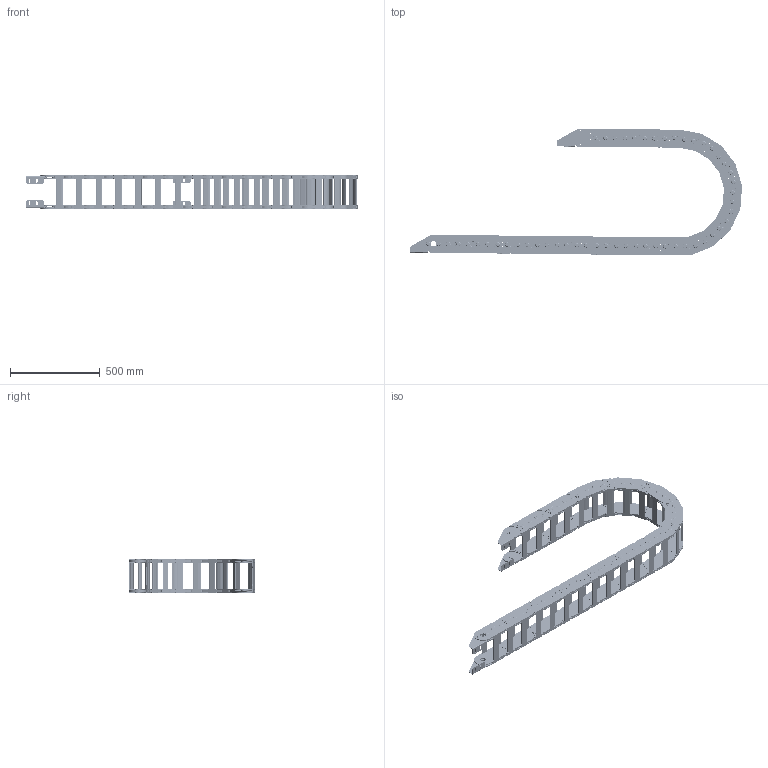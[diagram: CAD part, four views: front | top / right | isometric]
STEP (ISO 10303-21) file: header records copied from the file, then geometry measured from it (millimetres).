
FILE_DESCRIPTION((''),'2;1');
FILE_NAME('80GD-75-R300_ASM','2022-07-31T16:15:06',('admin'),(''),'CREO PARAMETRIC BY PTC INC, 2021164','CREO PARAMETRIC BY PTC INC, 2021164','');
FILE_SCHEMA(('CONFIG_CONTROL_DESIGN','GEOMETRIC_VALIDATION_PROPERTIES_MIM'));
Length unit declared in the file: millimetre
Products named in the file (5): 80-A; 80-B; 80-LTT; 80-LTT-2; 80GD-75-R300_ASM
Assembly tree (28 placements, depth 2):
  80GD-75-R300_ASM
    80-A  x13
    80-B  x13
    80-LTT
    80-LTT-2
Bounding box: 1848.36 x 704.94 x 190.3 mm (x, y, z)
Volume: 12947297.4 mm3; surface area: 4033398.7 mm2
Topology: 108 solids, 108 shells, 4580 faces, 12406 edges, 8410 vertices
Faces by surface type: cylinder 2024, plane 1828, torus 520, cone 208
Entity records: 21453 total; most frequent: DIRECTION 3094, CARTESIAN_POINT 2858, ORIENTED_EDGE 2732, EDGE_CURVE 1366, AXIS2_PLACEMENT_3D 1195, PRESENTATION_STYLE_ASSIGNMENT 1114, STYLED_ITEM 1114, VERTEX_POINT 922
